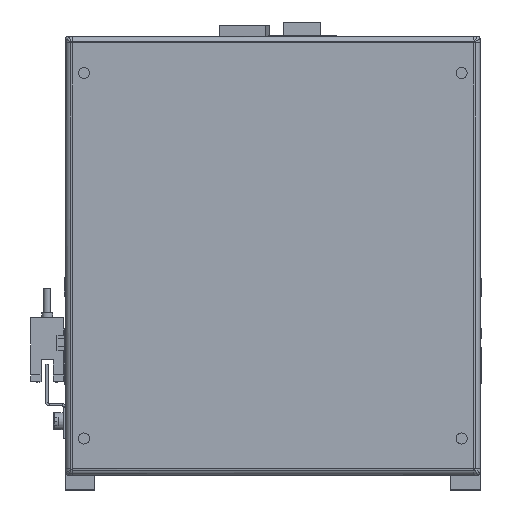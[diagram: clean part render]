
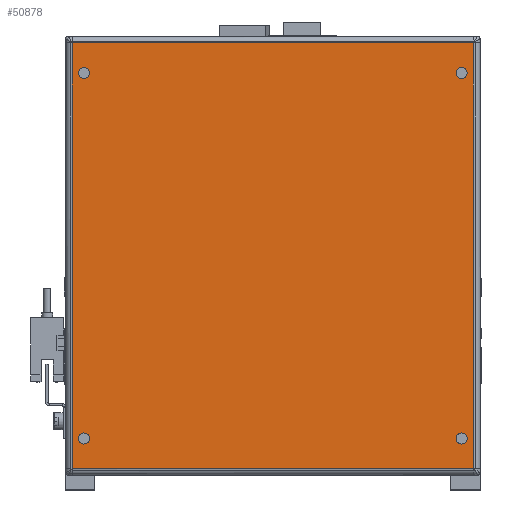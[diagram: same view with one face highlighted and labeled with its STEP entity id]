
A CAD part, front view. The second image highlights one B-rep face of the part: STEP entity #50878.
In plain terms, the highlighted planar face has unit normal (0, -1, 0) as drawn and (0, 0, -1) by its records, which use the part's own axes.
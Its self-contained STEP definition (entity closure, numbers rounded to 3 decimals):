
#530 = CARTESIAN_POINT ( 'NONE',  ( 13.497, 129.731, -47. ) ) ;
#2045 = DIRECTION ( 'NONE',  ( -1., 0., 0. ) ) ;
#2064 = ORIENTED_EDGE ( 'NONE', *, *, #19890, .F. ) ;
#2192 = DIRECTION ( 'NONE',  ( 0., 0., -1. ) ) ;
#2497 = EDGE_LOOP ( 'NONE', ( #51759, #15780 ) ) ;
#2766 = LINE ( 'NONE', #16341, #36139 ) ;
#3191 = DIRECTION ( 'NONE',  ( 1., 0., 0. ) ) ;
#4715 = CARTESIAN_POINT ( 'NONE',  ( 160.247, -24.269, -47. ) ) ;
#5226 = DIRECTION ( 'NONE',  ( 0., 1., 0. ) ) ;
#6066 = CIRCLE ( 'NONE', #21343, 2.25 ) ;
#6499 = DIRECTION ( 'NONE',  ( 0., 0., -1. ) ) ;
#7147 = AXIS2_PLACEMENT_3D ( 'NONE', #18697, #30560, #2045 ) ;
#8336 = CIRCLE ( 'NONE', #7147, 2.25 ) ;
#8573 = EDGE_CURVE ( 'NONE', #43909, #44579, #51617, .T. ) ;
#8809 = AXIS2_PLACEMENT_3D ( 'NONE', #42449, #29289, #33636 ) ;
#9102 = CARTESIAN_POINT ( 'NONE',  ( -1.016, -29.032, -47. ) ) ;
#9154 = FACE_BOUND ( 'NONE', #2497, .T. ) ;
#9162 = EDGE_CURVE ( 'NONE', #30655, #46726, #8336, .T. ) ;
#9166 = CARTESIAN_POINT ( 'NONE',  ( 11.247, -24.269, -47. ) ) ;
#9174 = CARTESIAN_POINT ( 'NONE',  ( 172.51, 134.494, -47. ) ) ;
#9424 = CARTESIAN_POINT ( 'NONE',  ( -1.016, -29.062, -47. ) ) ;
#9981 = EDGE_CURVE ( 'NONE', #32848, #46200, #38338, .T. ) ;
#10039 = DIRECTION ( 'NONE',  ( -1., 0., 0. ) ) ;
#11486 = EDGE_CURVE ( 'NONE', #46200, #32848, #18466, .T. ) ;
#11518 = ORIENTED_EDGE ( 'NONE', *, *, #39869, .F. ) ;
#11535 = EDGE_LOOP ( 'NONE', ( #38590, #15479, #36993, #43338 ) ) ;
#13750 = CARTESIAN_POINT ( 'NONE',  ( 160.247, -24.269, -47. ) ) ;
#15038 = CARTESIAN_POINT ( 'NONE',  ( 172.51, 134.524, -47. ) ) ;
#15298 = CIRCLE ( 'NONE', #36225, 2.25 ) ;
#15479 = ORIENTED_EDGE ( 'NONE', *, *, #8573, .T. ) ;
#15674 = CARTESIAN_POINT ( 'NONE',  ( -1.016, 134.494, -47. ) ) ;
#15780 = ORIENTED_EDGE ( 'NONE', *, *, #38508, .F. ) ;
#16341 = CARTESIAN_POINT ( 'NONE',  ( 172.54, -29.032, -47. ) ) ;
#17242 = VERTEX_POINT ( 'NONE', #47095 ) ;
#17777 = CARTESIAN_POINT ( 'NONE',  ( 11.247, 129.731, -47. ) ) ;
#17968 = VERTEX_POINT ( 'NONE', #33389 ) ;
#18466 = CIRCLE ( 'NONE', #50158, 2.25 ) ;
#18697 = CARTESIAN_POINT ( 'NONE',  ( 160.247, 129.731, -47. ) ) ;
#18713 = AXIS2_PLACEMENT_3D ( 'NONE', #4715, #33971, #37481 ) ;
#19054 = EDGE_LOOP ( 'NONE', ( #2064, #36211 ) ) ;
#19682 = ORIENTED_EDGE ( 'NONE', *, *, #23387, .F. ) ;
#19890 = EDGE_CURVE ( 'NONE', #46726, #30655, #6066, .T. ) ;
#20987 = FACE_BOUND ( 'NONE', #19054, .T. ) ;
#21343 = AXIS2_PLACEMENT_3D ( 'NONE', #48781, #2192, #48426 ) ;
#21422 = CIRCLE ( 'NONE', #25191, 2.25 ) ;
#21989 = DIRECTION ( 'NONE',  ( 0., 0., -1. ) ) ;
#22170 = EDGE_LOOP ( 'NONE', ( #11518, #19682 ) ) ;
#22290 = ORIENTED_EDGE ( 'NONE', *, *, #11486, .F. ) ;
#22644 = VERTEX_POINT ( 'NONE', #28692 ) ;
#23208 = EDGE_CURVE ( 'NONE', #44579, #39147, #53891, .T. ) ;
#23387 = EDGE_CURVE ( 'NONE', #17968, #22644, #51275, .T. ) ;
#24551 = LINE ( 'NONE', #15038, #26511 ) ;
#25191 = AXIS2_PLACEMENT_3D ( 'NONE', #13750, #34560, #10039 ) ;
#25472 = CARTESIAN_POINT ( 'NONE',  ( 157.997, 129.731, -47. ) ) ;
#26511 = VECTOR ( 'NONE', #27969, 1000. ) ;
#27969 = DIRECTION ( 'NONE',  ( 0., -1., 0. ) ) ;
#28692 = CARTESIAN_POINT ( 'NONE',  ( 8.997, -24.269, -47. ) ) ;
#29289 = DIRECTION ( 'NONE',  ( 0., 0., -1. ) ) ;
#30560 = DIRECTION ( 'NONE',  ( 0., 0., -1. ) ) ;
#30655 = VERTEX_POINT ( 'NONE', #50200 ) ;
#30693 = VECTOR ( 'NONE', #5226, 1000. ) ;
#30738 = DIRECTION ( 'NONE',  ( 0., 0., -1. ) ) ;
#30897 = VERTEX_POINT ( 'NONE', #44646 ) ;
#32688 = FACE_BOUND ( 'NONE', #38853, .T. ) ;
#32848 = VERTEX_POINT ( 'NONE', #530 ) ;
#32856 = CARTESIAN_POINT ( 'NONE',  ( 146.597, 2.271, -47. ) ) ;
#33071 = EDGE_CURVE ( 'NONE', #30897, #17242, #21422, .T. ) ;
#33389 = CARTESIAN_POINT ( 'NONE',  ( 13.497, -24.269, -47. ) ) ;
#33636 = DIRECTION ( 'NONE',  ( -1., 0., 0. ) ) ;
#33971 = DIRECTION ( 'NONE',  ( 0., 0., -1. ) ) ;
#34019 = VERTEX_POINT ( 'NONE', #49717 ) ;
#34560 = DIRECTION ( 'NONE',  ( 0., 0., -1. ) ) ;
#36139 = VECTOR ( 'NONE', #53217, 1000. ) ;
#36211 = ORIENTED_EDGE ( 'NONE', *, *, #9162, .F. ) ;
#36225 = AXIS2_PLACEMENT_3D ( 'NONE', #9166, #30738, #39213 ) ;
#36461 = CARTESIAN_POINT ( 'NONE',  ( -1.046, 134.494, -47. ) ) ;
#36489 = AXIS2_PLACEMENT_3D ( 'NONE', #48360, #6499, #47994 ) ;
#36993 = ORIENTED_EDGE ( 'NONE', *, *, #23208, .T. ) ;
#37467 = PLANE ( 'NONE',  #38784 ) ;
#37481 = DIRECTION ( 'NONE',  ( -1., 0., 0. ) ) ;
#38338 = CIRCLE ( 'NONE', #36489, 2.25 ) ;
#38508 = EDGE_CURVE ( 'NONE', #17242, #30897, #50710, .T. ) ;
#38590 = ORIENTED_EDGE ( 'NONE', *, *, #41053, .T. ) ;
#38784 = AXIS2_PLACEMENT_3D ( 'NONE', #32856, #41658, #42000 ) ;
#38853 = EDGE_LOOP ( 'NONE', ( #22290, #40318 ) ) ;
#39147 = VERTEX_POINT ( 'NONE', #9174 ) ;
#39213 = DIRECTION ( 'NONE',  ( -1., 0., 0. ) ) ;
#39869 = EDGE_CURVE ( 'NONE', #22644, #17968, #15298, .T. ) ;
#40318 = ORIENTED_EDGE ( 'NONE', *, *, #9981, .F. ) ;
#41053 = EDGE_CURVE ( 'NONE', #34019, #43909, #2766, .T. ) ;
#41225 = FACE_BOUND ( 'NONE', #22170, .T. ) ;
#41658 = DIRECTION ( 'NONE',  ( 0., 0., -1. ) ) ;
#42000 = DIRECTION ( 'NONE',  ( -1., 0., 0. ) ) ;
#42449 = CARTESIAN_POINT ( 'NONE',  ( 11.247, -24.269, -47. ) ) ;
#43338 = ORIENTED_EDGE ( 'NONE', *, *, #46988, .T. ) ;
#43909 = VERTEX_POINT ( 'NONE', #9102 ) ;
#44579 = VERTEX_POINT ( 'NONE', #15674 ) ;
#44646 = CARTESIAN_POINT ( 'NONE',  ( 157.997, -24.269, -47. ) ) ;
#46200 = VERTEX_POINT ( 'NONE', #51265 ) ;
#46726 = VERTEX_POINT ( 'NONE', #25472 ) ;
#46988 = EDGE_CURVE ( 'NONE', #39147, #34019, #24551, .T. ) ;
#46993 = DIRECTION ( 'NONE',  ( -1., 0., 0. ) ) ;
#47095 = CARTESIAN_POINT ( 'NONE',  ( 162.497, -24.269, -47. ) ) ;
#47793 = FACE_OUTER_BOUND ( 'NONE', #11535, .T. ) ;
#47994 = DIRECTION ( 'NONE',  ( -1., 0., 0. ) ) ;
#48360 = CARTESIAN_POINT ( 'NONE',  ( 11.247, 129.731, -47. ) ) ;
#48426 = DIRECTION ( 'NONE',  ( -1., 0., 0. ) ) ;
#48781 = CARTESIAN_POINT ( 'NONE',  ( 160.247, 129.731, -47. ) ) ;
#49717 = CARTESIAN_POINT ( 'NONE',  ( 172.51, -29.032, -47. ) ) ;
#50158 = AXIS2_PLACEMENT_3D ( 'NONE', #17777, #21989, #46993 ) ;
#50200 = CARTESIAN_POINT ( 'NONE',  ( 162.497, 129.731, -47. ) ) ;
#50710 = CIRCLE ( 'NONE', #18713, 2.25 ) ;
#50878 = ADVANCED_FACE ( 'NONE', ( #41225, #32688, #20987, #9154, #47793 ), #37467, .T. ) ;
#51265 = CARTESIAN_POINT ( 'NONE',  ( 8.997, 129.731, -47. ) ) ;
#51275 = CIRCLE ( 'NONE', #8809, 2.25 ) ;
#51617 = LINE ( 'NONE', #9424, #30693 ) ;
#51759 = ORIENTED_EDGE ( 'NONE', *, *, #33071, .F. ) ;
#52566 = VECTOR ( 'NONE', #3191, 1000. ) ;
#53217 = DIRECTION ( 'NONE',  ( -1., 0., 0. ) ) ;
#53891 = LINE ( 'NONE', #36461, #52566 ) ;
